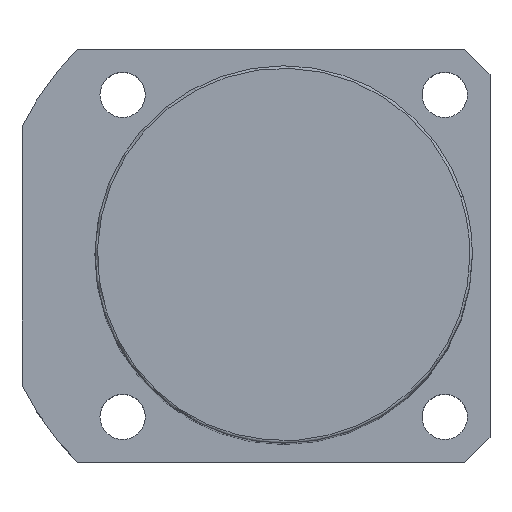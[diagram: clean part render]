
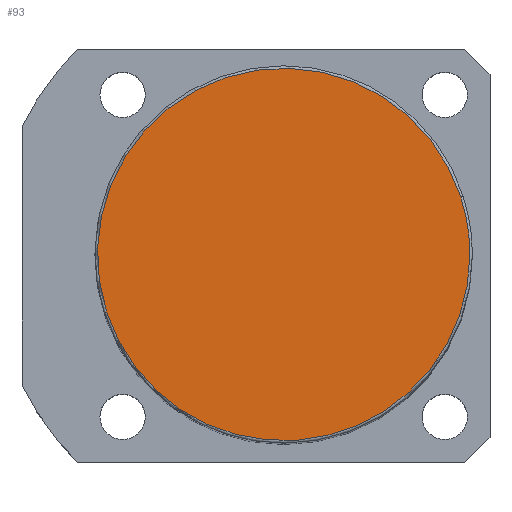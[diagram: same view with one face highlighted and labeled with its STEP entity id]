
A CAD part, top view. The second image highlights one B-rep face of the part: STEP entity #93.
In plain terms, the highlighted planar face has unit normal (0, 0, 1).
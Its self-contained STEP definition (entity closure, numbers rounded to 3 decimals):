
#16=CARTESIAN_POINT('',(35.189,11.434,173.0));
#17=VERTEX_POINT('',#16);
#45=CARTESIAN_POINT('',(-35.189,-11.434,173.0));
#46=VERTEX_POINT('',#45);
#54=CARTESIAN_POINT('',(0.0,0.0,173.0));
#55=DIRECTION('',(0.0,0.0,1.0));
#56=DIRECTION('',(1.0,0.0,0.0));
#57=AXIS2_PLACEMENT_3D('',#54,#55,#56);
#58=CIRCLE('',#57,37.0);
#59=EDGE_CURVE('no 890',#17,#46,#58,.T.);
#69=CARTESIAN_POINT('',(37.0,0.0,173.0));
#70=VERTEX_POINT('',#69);
#71=CARTESIAN_POINT('',(0.0,0.0,173.0));
#72=DIRECTION('',(0.0,0.0,1.0));
#73=DIRECTION('',(1.0,0.0,0.0));
#74=AXIS2_PLACEMENT_3D('',#71,#72,#73);
#75=CIRCLE('',#74,37.0);
#76=EDGE_CURVE('no 899',#70,#17,#75,.T.);
#77=ORIENTED_EDGE('',*,*,#76,.T.);
#78=ORIENTED_EDGE('',*,*,#59,.T.);
#79=CARTESIAN_POINT('',(0.0,0.0,173.0));
#80=DIRECTION('',(0.0,0.0,1.0));
#81=DIRECTION('',(1.0,0.0,0.0));
#82=AXIS2_PLACEMENT_3D('',#79,#80,#81);
#83=CIRCLE('',#82,37.0);
#84=EDGE_CURVE('no 905',#46,#70,#83,.T.);
#85=ORIENTED_EDGE('',*,*,#84,.T.);
#86=EDGE_LOOP('',(#77,#78,#85));
#87=FACE_OUTER_BOUND('',#86,.T.);
#88=CARTESIAN_POINT('',(0.0,0.0,173.0));
#89=DIRECTION('',(0.0,0.0,1.0));
#90=DIRECTION('',(1.0,0.0,0.0));
#91=AXIS2_PLACEMENT_3D('',#88,#89,#90);
#92=PLANE('',#91);
#93=ADVANCED_FACE('no 892',(#87),#92,.T.);
